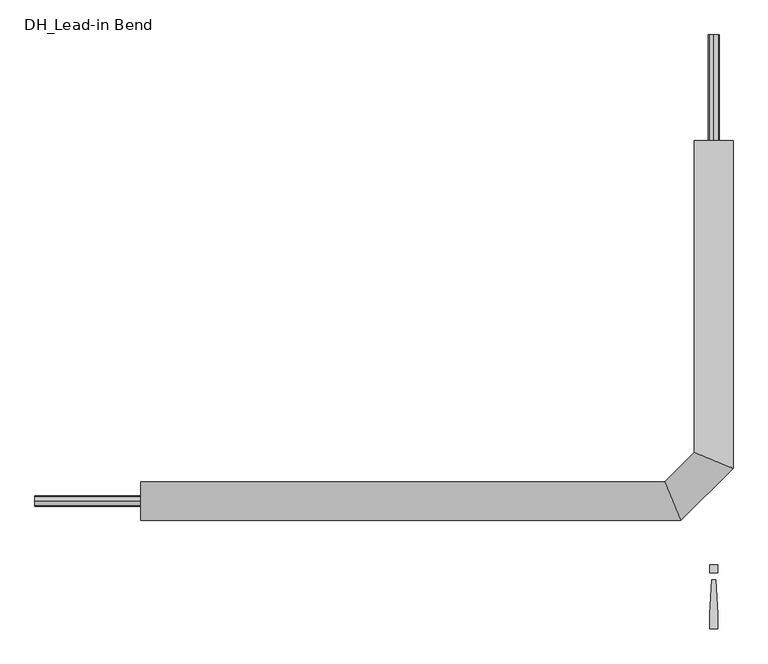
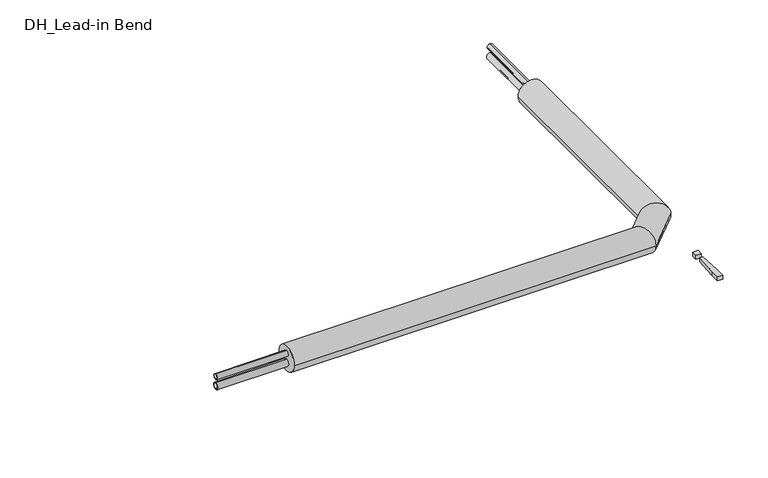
"""IFC4 building model written with IfcOpenShell, lengths in millimetres: pipe fitting geometry, DH_Lead-in Bend : RVT/RVX/RTX DUO 7.4 DW Horizontal."""

from ifc_helpers import new_model, si_unit, point, frame, frame_2d, origin, origin_with_axes, place, context, project, spatial, polyline, circle_curve, ellipse_curve, trimmed, segment, composite_curve, outline, extrude, source, transform, mapped, element, save
from ifc_brep_helpers import plane_surface, cylinder_surface, advanced_brep


def dh_lead_in_bend_c49822a2(model_context):
    return source(origin(), model_context, "Body", "SolidModel", [
        extrude(outline(composite_curve([segment(trimmed(circle_curve(frame_2d((0.0, -16.0)), 12.5), [point((0.0, -3.5))], [point((0.0, -28.5))], False, "CARTESIAN"), True, "CONTINUOUS"), segment(trimmed(circle_curve(frame_2d((0.0, -16.0)), 12.5), [point((0.0, -28.5))], [point((0.0, -3.5))], False, "CARTESIAN"), True, "CONTINUOUS")], self_intersect=False), holes=[composite_curve([segment(trimmed(circle_curve(frame_2d((0.0, -16.0)), 9.0), [point((0.0, -7.0))], [point((0.0, -25.0))], True, "CARTESIAN"), True, "CONTINUOUS"), segment(trimmed(circle_curve(frame_2d((0.0, -16.0)), 9.0), [point((0.0, -25.0))], [point((0.0, -7.0))], True, "CARTESIAN"), True, "CONTINUOUS")], self_intersect=False)]), frame((-1600.0, 0.0, 0.0), z_axis=(1.0, 0.0, 0.0), x_axis=(0.0, 1.0, 0.0)), (0.0, 0.0, 1.0), 250.0),
        advanced_brep(
        [(-1350.0, -45.5, 0.0), (-1350.0, 45.5, 0.0), (-77.6532829, -45.5, 0.0), (-115.3467171, 45.5, 0.0), (45.5, 850.0, 0.0), (-45.5, 850.0, 0.0), (-45.5, 115.3467171, 0.0), (45.5, 77.6532829, 0.0)],
        [
            (0, 1, circle_curve(frame((-1350.0, 0.0, 0.0), z_axis=(-1.0, 0.0, 0.0), x_axis=(0.0, 1.0, 0.0)), 45.5)),
            (1, 0, circle_curve(frame((-1350.0, 0.0, 0.0), z_axis=(-1.0, 0.0, 0.0), x_axis=(0.0, 1.0, 0.0)), 45.5)),
            (0, 2),
            (2, 3, ellipse_curve(frame((-96.5, 0.0, 0.0), z_axis=(-0.9238795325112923, -0.38268343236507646, 0.0), x_axis=(-0.38268343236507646, 0.9238795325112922, 0.0)), 49.2488451, 45.5)),
            (3, 1),
            (3, 2, ellipse_curve(frame((-96.5, 0.0, 0.0), z_axis=(-0.9238795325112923, -0.38268343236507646, 0.0), x_axis=(-0.38268343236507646, 0.9238795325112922, 0.0)), 49.2488451, 45.5)),
            (4, 5, circle_curve(frame((0.0, 850.0, 0.0), z_axis=(0.0, 1.0, 0.0), x_axis=(-1.0, 0.0, 0.0)), 45.5)),
            (5, 4, circle_curve(frame((0.0, 850.0, 0.0), z_axis=(0.0, 1.0, 0.0), x_axis=(-1.0, 0.0, 0.0)), 45.5)),
            (6, 7, ellipse_curve(frame((0.0, 96.5, 0.0), z_axis=(0.3826834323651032, 0.9238795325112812, 0.0), x_axis=(0.9238795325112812, -0.3826834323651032, 0.0)), 49.2488451, 45.5)),
            (7, 4),
            (5, 6),
            (7, 6, ellipse_curve(frame((0.0, 96.5, 0.0), z_axis=(0.3826834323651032, 0.9238795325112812, 0.0), x_axis=(0.9238795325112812, -0.3826834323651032, 0.0)), 49.2488451, 45.5)),
            (2, 7),
            (6, 3),
        ],
        [
            plane_surface(frame((-1350.0, 0.0, 0.0), z_axis=(-1.0, 0.0, 0.0), x_axis=(0.0, 0.0, 1.0))),
            cylinder_surface(frame((-1350.0, 0.0, 0.0), z_axis=(-1.0, 0.0, 0.0), x_axis=(0.0, 1.0, 0.0)), 45.5),
            plane_surface(frame((0.0, 850.0, 0.0), z_axis=(0.0, 1.0, 0.0), x_axis=(0.0, 0.0, 1.0))),
            cylinder_surface(frame((0.0, 96.5, 0.0), z_axis=(0.0, -1.0, 0.0), x_axis=(-1.0, 0.0, 0.0)), 45.5),
            cylinder_surface(frame((-96.5, 0.0, 0.0), z_axis=(-0.707106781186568, -0.7071067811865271, 0.0), x_axis=(-0.7071067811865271, 0.707106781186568, 0.0)), 45.5),
        ],
        [
            (0, [[1, 2]]),
            (1, [[-1, 3, 4, 5]]),
            (1, [[-2, -5, 6, -3]]),
            (2, [[7, 8]]),
            (3, [[9, 10, -8, 11]]),
            (3, [[12, -11, -7, -10]]),
            (4, [[-4, 13, -9, 14]]),
            (4, [[-6, -14, -12, -13]]),
        ],
    ),
        extrude(outline(composite_curve([segment(trimmed(circle_curve(frame_2d((18.5, 0.0)), 10.0), [point((8.5, 0.0))], [point((28.5, 0.0))], False, "CARTESIAN"), True, "CONTINUOUS"), segment(trimmed(circle_curve(frame_2d((18.5, 0.0)), 10.0), [point((28.5, 0.0))], [point((8.5, 0.0))], False, "CARTESIAN"), True, "CONTINUOUS")], self_intersect=False), holes=[composite_curve([segment(trimmed(circle_curve(frame_2d((18.5, 0.0)), 7.2), [point((11.3, 0.0))], [point((25.7, 0.0))], True, "CARTESIAN"), True, "CONTINUOUS"), segment(trimmed(circle_curve(frame_2d((18.5, 0.0)), 7.2), [point((25.7, 0.0))], [point((11.3, 0.0))], True, "CARTESIAN"), True, "CONTINUOUS")], self_intersect=False)]), frame((0.0, 850.0, 0.0), z_axis=(0.0, 1.0, 0.0), x_axis=(0.0, 0.0, 1.0)), (0.0, 0.0, 1.0), 250.0),
        extrude(outline(composite_curve([segment(trimmed(circle_curve(frame_2d((0.0, 18.5)), 10.0), [point((0.0, 8.5))], [point((0.0, 28.5))], False, "CARTESIAN"), True, "CONTINUOUS"), segment(trimmed(circle_curve(frame_2d((0.0, 18.5)), 10.0), [point((0.0, 28.5))], [point((0.0, 8.5))], False, "CARTESIAN"), True, "CONTINUOUS")], self_intersect=False), holes=[composite_curve([segment(trimmed(circle_curve(frame_2d((0.0, 18.5)), 7.2), [point((0.0, 11.3))], [point((0.0, 25.7))], True, "CARTESIAN"), True, "CONTINUOUS"), segment(trimmed(circle_curve(frame_2d((0.0, 18.5)), 7.2), [point((0.0, 25.7))], [point((0.0, 11.3))], True, "CARTESIAN"), True, "CONTINUOUS")], self_intersect=False)]), frame((-1600.0, 0.0, 0.0), z_axis=(1.0, 0.0, 0.0), x_axis=(0.0, 1.0, 0.0)), (0.0, 0.0, 1.0), 250.0),
        extrude(outline(composite_curve([segment(trimmed(circle_curve(frame_2d((-16.0, 0.0)), 12.5), [point((-3.5, 0.0))], [point((-28.5, 0.0))], False, "CARTESIAN"), True, "CONTINUOUS"), segment(trimmed(circle_curve(frame_2d((-16.0, 0.0)), 12.5), [point((-28.5, 0.0))], [point((-3.5, 0.0))], False, "CARTESIAN"), True, "CONTINUOUS")], self_intersect=False), holes=[composite_curve([segment(trimmed(circle_curve(frame_2d((-16.0, 0.0)), 9.0), [point((-7.0, 0.0))], [point((-25.0, 0.0))], True, "CARTESIAN"), True, "CONTINUOUS"), segment(trimmed(circle_curve(frame_2d((-16.0, 0.0)), 9.0), [point((-25.0, 0.0))], [point((-7.0, 0.0))], True, "CARTESIAN"), True, "CONTINUOUS")], self_intersect=False)]), frame((0.0, 850.0, 0.0), z_axis=(0.0, 1.0, 0.0), x_axis=(0.0, 0.0, 1.0)), (0.0, 0.0, 1.0), 250.0),
        extrude(outline(polyline([(4.7088895, -185.3166715), (9.4177791, -266.6553807), (9.4177791, -300.6844652), (-9.4177791, -300.6844652), (-9.4177791, -266.6553807), (-4.7088895, -185.3166715), (4.7088895, -185.3166715)])), origin_with_axes(), (0.0, 0.0, 1.0), 15.0),
        extrude(outline(polyline([(9.4177791, -150.0), (9.4177791, -168.8355582), (-9.4177791, -168.8355582), (-9.4177791, -150.0), (9.4177791, -150.0)])), origin_with_axes(), (0.0, 0.0, 1.0), 15.0),
    ])


if __name__ == "__main__":
    model = new_model("IFC4")
    model_context = context("Model", 3, world=origin())
    ifc_project = project(units=[si_unit("LENGTHUNIT", "METRE", prefix="MILLI")], contexts=[model_context])
    site = spatial("IfcSite", under=ifc_project)
    building = spatial("IfcBuilding", under=site)
    placement = place(None, origin())
    dh_lead_in_bend_shape = dh_lead_in_bend_c49822a2(model_context)
    element("IfcPipeFitting", 1, ObjectType="DH_Lead-in Bend : RVT/RVX/RTX DUO 7.4 DW Horizontal", at=placement, inside=building, context=model_context, shape_type="MappedRepresentation", body=[
        mapped(dh_lead_in_bend_shape, transform((0.0, 0.0, 0.0), x_axis=(1.0, 0.0, 0.0), y_axis=(0.0, 1.0, 0.0), z_axis=(0.0, 0.0, 1.0))),
    ])
    save(model, "model.ifc")
